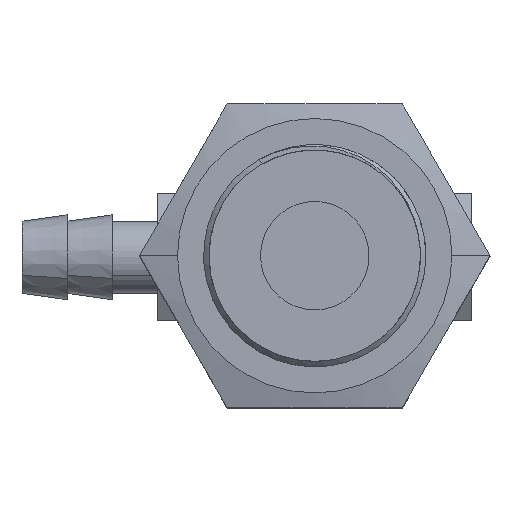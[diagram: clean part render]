
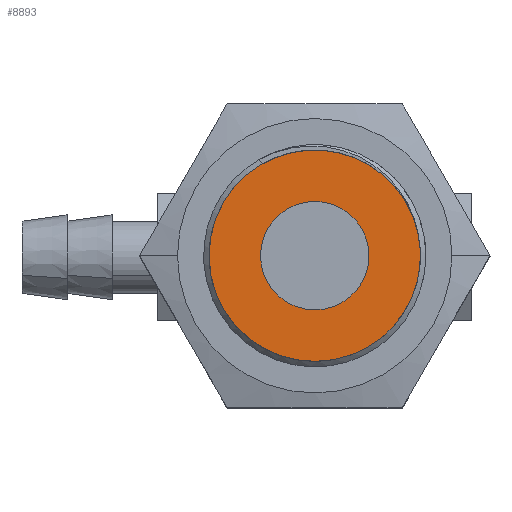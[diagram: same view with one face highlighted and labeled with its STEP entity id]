
A CAD part, top view. The second image highlights one B-rep face of the part: STEP entity #8893.
In plain terms, the highlighted planar face has unit normal (0, 0, 1).
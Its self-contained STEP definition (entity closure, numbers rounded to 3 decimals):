
#439 = EDGE_LOOP ( 'NONE', ( #12495, #9838 ) ) ;
#472 = CARTESIAN_POINT ( 'NONE',  ( 8.992, -0.632, 30.5 ) ) ;
#531 = CARTESIAN_POINT ( 'NONE',  ( 5.842, 5.057, 30.5 ) ) ;
#670 = AXIS2_PLACEMENT_3D ( 'NONE', #5546, #14047, #6754 ) ;
#810 = EDGE_CURVE ( 'NONE', #3413, #9076, #7386, .T. ) ;
#904 = CARTESIAN_POINT ( 'NONE',  ( 3.152, -0.149, 30.5 ) ) ;
#1712 = CARTESIAN_POINT ( 'NONE',  ( 8.986, 0.403, 30.5 ) ) ;
#1769 = CARTESIAN_POINT ( 'NONE',  ( 4.885, 5.449, 30.5 ) ) ;
#1822 = PLANE ( 'NONE',  #13121 ) ;
#1878 = CARTESIAN_POINT ( 'NONE',  ( -4.935, 2.018, 30.5 ) ) ;
#1910 = CARTESIAN_POINT ( 'NONE',  ( 3.152, -0.149, 30.5 ) ) ;
#2139 = DIRECTION ( 'NONE',  ( 0.5, -0.866, 0. ) ) ;
#2396 = EDGE_CURVE ( 'NONE', #9076, #7370, #4928, .T. ) ;
#2472 = CARTESIAN_POINT ( 'NONE',  ( 4.652, -2.747, 30.5 ) ) ;
#2962 = CARTESIAN_POINT ( 'NONE',  ( 8.799, 1.416, 30.5 ) ) ;
#3009 = CARTESIAN_POINT ( 'NONE',  ( 3.876, 5.666, 30.5 ) ) ;
#3035 = ORIENTED_EDGE ( 'NONE', *, *, #6086, .T. ) ;
#3128 = DIRECTION ( 'NONE',  ( 0.5, -0.866, 0. ) ) ;
#3413 = VERTEX_POINT ( 'NONE', #11121 ) ;
#3438 = VERTEX_POINT ( 'NONE', #2472 ) ;
#3623 = CARTESIAN_POINT ( 'NONE',  ( 3.152, -0.149, 30.5 ) ) ;
#4108 = FACE_BOUND ( 'NONE', #439, .T. ) ;
#4232 = CARTESIAN_POINT ( 'NONE',  ( 8.435, 2.386, 30.5 ) ) ;
#4296 = CARTESIAN_POINT ( 'NONE',  ( 2.844, 5.702, 30.5 ) ) ;
#4470 = B_SPLINE_CURVE_WITH_KNOTS ( 'NONE', 3,
 ( #13860, #11495, #12745, #5462, #13959, #6666, #15177, #7896, #472, #9131, #1712, #10362, #2962, #11596, #4232, #12800, #5516, #14021, #6721, #15244, #7949, #531, #9181, #1769, #10414, #3009, #11649, #4296, #12854, #5575, #14080, #6778, #15297, #8004 ),
 .UNSPECIFIED., .F., .F.,
 ( 4, 2, 2, 2, 2, 2, 2, 2, 2, 2, 2, 2, 2, 2, 2, 2, 4 ),
 ( 0., 0.001, 0.002, 0.003, 0.004, 0.005, 0.006, 0.007, 0.008, 0.009, 0.01, 0.011, 0.012, 0.014, 0.015, 0.016, 0.017 ),
 .UNSPECIFIED. ) ;
#4784 = ORIENTED_EDGE ( 'NONE', *, *, #2396, .T. ) ;
#4902 = DIRECTION ( 'NONE',  ( -0.5, 0.866, 0. ) ) ;
#4928 = CIRCLE ( 'NONE', #8359, 5.85 ) ;
#4975 = DIRECTION ( 'NONE',  ( -0.5, 0.866, 0. ) ) ;
#5462 = CARTESIAN_POINT ( 'NONE',  ( 8.312, -2.929, 30.5 ) ) ;
#5516 = CARTESIAN_POINT ( 'NONE',  ( 7.911, 3.271, 30.5 ) ) ;
#5546 = CARTESIAN_POINT ( 'NONE',  ( 3.152, -0.149, 30.5 ) ) ;
#5575 = CARTESIAN_POINT ( 'NONE',  ( 1.819, 5.557, 30.5 ) ) ;
#6086 = EDGE_CURVE ( 'NONE', #7370, #3413, #4470, .T. ) ;
#6288 = EDGE_CURVE ( 'NONE', #3438, #13605, #11178, .T. ) ;
#6666 = CARTESIAN_POINT ( 'NONE',  ( 8.718, -1.983, 30.5 ) ) ;
#6721 = CARTESIAN_POINT ( 'NONE',  ( 7.233, 4.056, 30.5 ) ) ;
#6754 = DIRECTION ( 'NONE',  ( 0.5, -0.866, 0. ) ) ;
#6778 = CARTESIAN_POINT ( 'NONE',  ( 0.84, 5.235, 30.5 ) ) ;
#7370 = VERTEX_POINT ( 'NONE', #8804 ) ;
#7386 = CIRCLE ( 'NONE', #9898, 5.85 ) ;
#7896 = CARTESIAN_POINT ( 'NONE',  ( 8.954, -0.973, 30.5 ) ) ;
#7949 = CARTESIAN_POINT ( 'NONE',  ( 6.435, 4.705, 30.5 ) ) ;
#8004 = CARTESIAN_POINT ( 'NONE',  ( 0.227, 4.917, 30.5 ) ) ;
#8359 = AXIS2_PLACEMENT_3D ( 'NONE', #3623, #12235, #4902 ) ;
#8414 = CARTESIAN_POINT ( 'NONE',  ( 6.077, -5.216, 30.5 ) ) ;
#8804 = CARTESIAN_POINT ( 'NONE',  ( 7.507, -4.055, 30.5 ) ) ;
#8893 = ADVANCED_FACE ( 'NONE', ( #4108, #13478 ), #1822, .T. ) ;
#9076 = VERTEX_POINT ( 'NONE', #8414 ) ;
#9131 = CARTESIAN_POINT ( 'NONE',  ( 9.009, 0.054, 30.5 ) ) ;
#9181 = CARTESIAN_POINT ( 'NONE',  ( 5.527, 5.208, 30.5 ) ) ;
#9555 = DIRECTION ( 'NONE',  ( 0., 0., 1. ) ) ;
#9838 = ORIENTED_EDGE ( 'NONE', *, *, #13133, .F. ) ;
#9898 = AXIS2_PLACEMENT_3D ( 'NONE', #1910, #14046, #4975 ) ;
#10362 = CARTESIAN_POINT ( 'NONE',  ( 8.881, 1.083, 30.5 ) ) ;
#10414 = CARTESIAN_POINT ( 'NONE',  ( 4.555, 5.54, 30.5 ) ) ;
#10522 = DIRECTION ( 'NONE',  ( 0., 0., 1. ) ) ;
#11121 = CARTESIAN_POINT ( 'NONE',  ( 0.227, 4.917, 30.5 ) ) ;
#11178 = CIRCLE ( 'NONE', #11680, 3. ) ;
#11495 = CARTESIAN_POINT ( 'NONE',  ( 7.739, -3.797, 30.5 ) ) ;
#11596 = CARTESIAN_POINT ( 'NONE',  ( 8.577, 2.066, 30.5 ) ) ;
#11649 = CARTESIAN_POINT ( 'NONE',  ( 3.529, 5.698, 30.5 ) ) ;
#11680 = AXIS2_PLACEMENT_3D ( 'NONE', #904, #9555, #2139 ) ;
#12065 = ORIENTED_EDGE ( 'NONE', *, *, #810, .T. ) ;
#12235 = DIRECTION ( 'NONE',  ( 0., 0., 1. ) ) ;
#12395 = CARTESIAN_POINT ( 'NONE',  ( 1.652, 2.449, 30.5 ) ) ;
#12495 = ORIENTED_EDGE ( 'NONE', *, *, #6288, .F. ) ;
#12745 = CARTESIAN_POINT ( 'NONE',  ( 7.948, -3.518, 30.5 ) ) ;
#12800 = CARTESIAN_POINT ( 'NONE',  ( 8.102, 2.987, 30.5 ) ) ;
#12854 = CARTESIAN_POINT ( 'NONE',  ( 2.502, 5.675, 30.5 ) ) ;
#13121 = AXIS2_PLACEMENT_3D ( 'NONE', #1878, #10522, #3128 ) ;
#13133 = EDGE_CURVE ( 'NONE', #13605, #3438, #13759, .T. ) ;
#13478 = FACE_OUTER_BOUND ( 'NONE', #15797, .T. ) ;
#13605 = VERTEX_POINT ( 'NONE', #12395 ) ;
#13759 = CIRCLE ( 'NONE', #670, 3. ) ;
#13860 = CARTESIAN_POINT ( 'NONE',  ( 7.507, -4.055, 30.5 ) ) ;
#13959 = CARTESIAN_POINT ( 'NONE',  ( 8.465, -2.622, 30.5 ) ) ;
#14021 = CARTESIAN_POINT ( 'NONE',  ( 7.477, 3.806, 30.5 ) ) ;
#14046 = DIRECTION ( 'NONE',  ( 0., 0., 1. ) ) ;
#14047 = DIRECTION ( 'NONE',  ( 0., 0., 1. ) ) ;
#14080 = CARTESIAN_POINT ( 'NONE',  ( 1.485, 5.468, 30.5 ) ) ;
#15177 = CARTESIAN_POINT ( 'NONE',  ( 8.818, -1.648, 30.5 ) ) ;
#15244 = CARTESIAN_POINT ( 'NONE',  ( 6.713, 4.505, 30.5 ) ) ;
#15297 = CARTESIAN_POINT ( 'NONE',  ( 0.528, 5.091, 30.5 ) ) ;
#15797 = EDGE_LOOP ( 'NONE', ( #3035, #12065, #4784 ) ) ;
